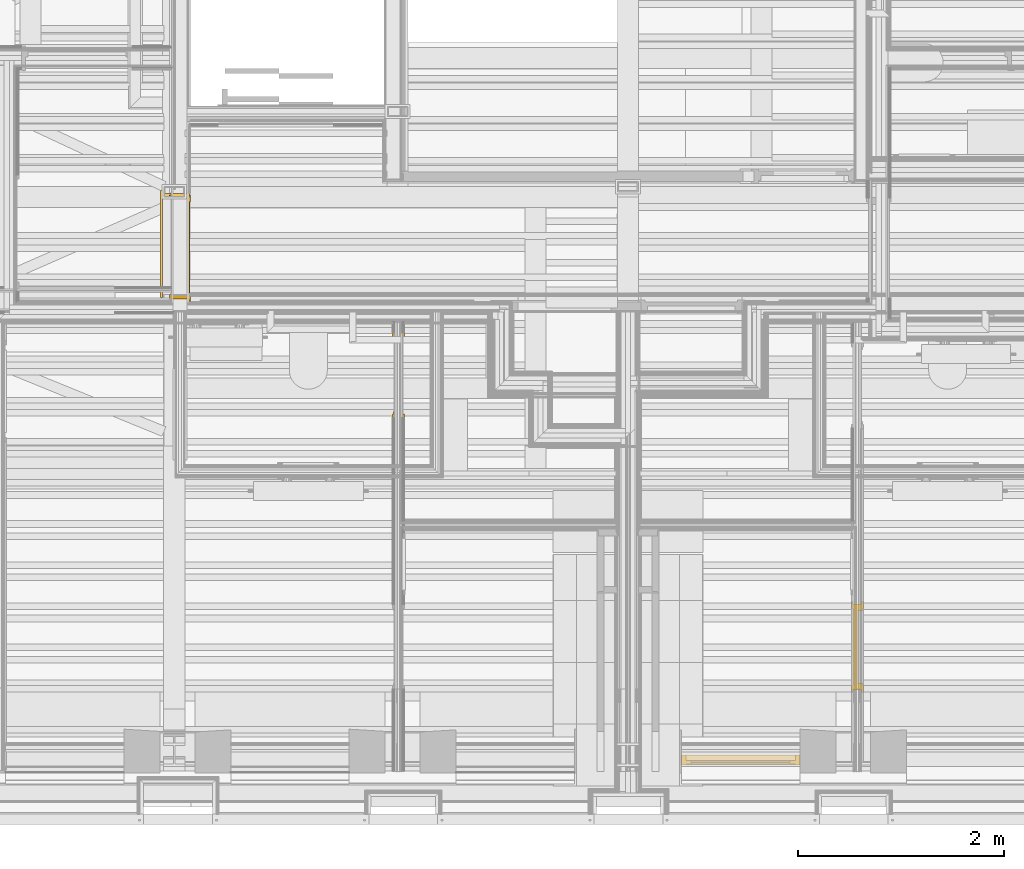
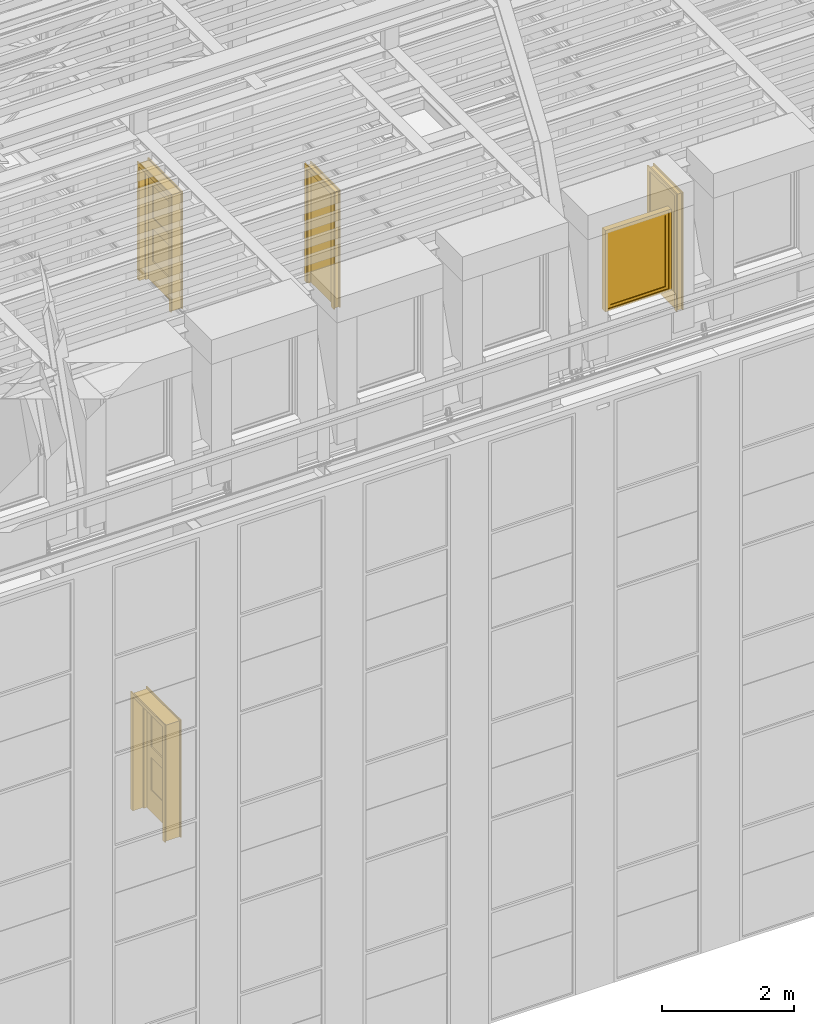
# One storey, part 119 of 183: 4 doors, 1 window.
"""IFC2X3 building model written with IfcOpenShell, lengths in metres."""

from ifc_helpers import new_model, entity, si_unit, converted_unit, derived_unit, money_unit, direction, frame, origin_with_axes, place, context, subcontext, project, spatial, faceted_brep, material, type_object, element, save


model = new_model("IFC2X3")

# Units and contexts
model_context = context("Model", 3, precision=1e-05, world=origin_with_axes(), true_north=direction((0.0, 1.0)))
body_context = subcontext(model_context, "Body", "Model", "MODEL_VIEW", scale=1.0)
ifc_project = project(units=[si_unit("LENGTHUNIT", "METRE"), si_unit("AREAUNIT", "SQUARE_METRE"), si_unit("VOLUMEUNIT", "CUBIC_METRE"), si_unit("ABSORBEDDOSEUNIT", "GRAY"), si_unit("AMOUNTOFSUBSTANCEUNIT", "MOLE"), si_unit("DOSEEQUIVALENTUNIT", "SIEVERT"), si_unit("ELECTRICCAPACITANCEUNIT", "FARAD"), si_unit("ELECTRICCHARGEUNIT", "COULOMB"), si_unit("ELECTRICCONDUCTANCEUNIT", "SIEMENS"), si_unit("ELECTRICCURRENTUNIT", "AMPERE"), si_unit("ELECTRICRESISTANCEUNIT", "OHM"), si_unit("ELECTRICVOLTAGEUNIT", "VOLT"), si_unit("ENERGYUNIT", "JOULE"), si_unit("FORCEUNIT", "NEWTON"), si_unit("FREQUENCYUNIT", "HERTZ"), si_unit("ILLUMINANCEUNIT", "LUX"), si_unit("INDUCTANCEUNIT", "HENRY"), si_unit("LUMINOUSFLUXUNIT", "LUMEN"), si_unit("LUMINOUSINTENSITYUNIT", "CANDELA"), si_unit("MAGNETICFLUXDENSITYUNIT", "TESLA"), si_unit("MAGNETICFLUXUNIT", "WEBER"), si_unit("MASSUNIT", "GRAM"), converted_unit("PLANEANGLEUNIT", "degree", entity("IfcReal", 0.0174532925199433), si_unit("PLANEANGLEUNIT", "RADIAN"), dimensions=[0, 0, 0, 0, 0, 0, 0]), si_unit("POWERUNIT", "WATT"), si_unit("PRESSUREUNIT", "PASCAL"), si_unit("RADIOACTIVITYUNIT", "BECQUEREL"), si_unit("SOLIDANGLEUNIT", "STERADIAN"), si_unit("THERMODYNAMICTEMPERATUREUNIT", "KELVIN"), si_unit("TIMEUNIT", "SECOND"), derived_unit("ACCELERATIONUNIT", [(si_unit("LENGTHUNIT", "METRE"), 1), (si_unit("TIMEUNIT", "SECOND"), -2)]), derived_unit("ANGULARVELOCITYUNIT", [(converted_unit("PLANEANGLEUNIT", "degree", entity("IfcReal", 0.0174532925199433), si_unit("PLANEANGLEUNIT", "RADIAN"), dimensions=[0, 0, 0, 0, 0, 0, 0]), 1), (si_unit("TIMEUNIT", "SECOND"), -1)]), derived_unit("CURVATUREUNIT", [(converted_unit("PLANEANGLEUNIT", "degree", entity("IfcReal", 0.0174532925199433), si_unit("PLANEANGLEUNIT", "RADIAN"), dimensions=[0, 0, 0, 0, 0, 0, 0]), 1), (si_unit("LENGTHUNIT", "METRE"), -1)]), derived_unit("DYNAMICVISCOSITYUNIT", [(si_unit("PRESSUREUNIT", "PASCAL"), 1), (si_unit("TIMEUNIT", "SECOND"), 1)]), derived_unit("HEATFLUXDENSITYUNIT", [(si_unit("POWERUNIT", "WATT"), 1), (si_unit("LENGTHUNIT", "METRE"), -2)]), derived_unit("HEATINGVALUEUNIT", [(si_unit("ENERGYUNIT", "JOULE"), 1), (si_unit("MASSUNIT", "GRAM"), -1)]), derived_unit("INTEGERCOUNTRATEUNIT", [(si_unit("TIMEUNIT", "SECOND"), -1)]), derived_unit("IONCONCENTRATIONUNIT", [(si_unit("MASSUNIT", "GRAM"), 1), (si_unit("VOLUMEUNIT", "CUBIC_METRE"), -1)]), derived_unit("ISOTHERMALMOISTURECAPACITYUNIT", [(si_unit("VOLUMEUNIT", "CUBIC_METRE"), 1), (si_unit("MASSUNIT", "GRAM"), -1)]), derived_unit("KINEMATICVISCOSITYUNIT", [(si_unit("AREAUNIT", "SQUARE_METRE"), 1), (si_unit("TIMEUNIT", "SECOND"), -1)]), derived_unit("LINEARFORCEUNIT", [(si_unit("FORCEUNIT", "NEWTON"), 1), (si_unit("LENGTHUNIT", "METRE"), -1)]), derived_unit("LINEARMOMENTUNIT", [(si_unit("FORCEUNIT", "NEWTON"), 1), (si_unit("LENGTHUNIT", "METRE"), -1)]), derived_unit("LINEARSTIFFNESSUNIT", [(si_unit("FORCEUNIT", "NEWTON"), 1), (si_unit("LENGTHUNIT", "METRE"), -1)]), derived_unit("LINEARVELOCITYUNIT", [(si_unit("LENGTHUNIT", "METRE"), 1), (si_unit("TIMEUNIT", "SECOND"), -1)]), derived_unit("LUMINOUSINTENSITYDISTRIBUTIONUNIT", [(si_unit("LUMINOUSINTENSITYUNIT", "CANDELA"), 1), (si_unit("LUMINOUSFLUXUNIT", "LUMEN"), -1)]), derived_unit("MASSDENSITYUNIT", [(si_unit("MASSUNIT", "GRAM"), 1), (si_unit("VOLUMEUNIT", "CUBIC_METRE"), -1)]), derived_unit("MASSFLOWRATEUNIT", [(si_unit("MASSUNIT", "GRAM"), 1), (si_unit("TIMEUNIT", "SECOND"), -1)]), derived_unit("MASSPERLENGTHUNIT", [(si_unit("MASSUNIT", "GRAM"), 1), (si_unit("LENGTHUNIT", "METRE"), -1)]), derived_unit("MODULUSOFELASTICITYUNIT", [(si_unit("FORCEUNIT", "NEWTON"), 1), (si_unit("AREAUNIT", "SQUARE_METRE"), -1)]), derived_unit("MODULUSOFLINEARSUBGRADEREACTIONUNIT", [(si_unit("FORCEUNIT", "NEWTON"), 1), (si_unit("LENGTHUNIT", "METRE"), -2)]), derived_unit("MODULUSOFROTATIONALSUBGRADEREACTIONUNIT", [(si_unit("FORCEUNIT", "NEWTON"), 1), (si_unit("LENGTHUNIT", "METRE"), 1)]), derived_unit("MODULUSOFSUBGRADEREACTIONUNIT", [(si_unit("FORCEUNIT", "NEWTON"), 1), (si_unit("VOLUMEUNIT", "CUBIC_METRE"), -1)]), derived_unit("MOISTUREDIFFUSIVITYUNIT", [(si_unit("VOLUMEUNIT", "CUBIC_METRE"), 1), (si_unit("TIMEUNIT", "SECOND"), -1)]), derived_unit("MOLECULARWEIGHTUNIT", [(si_unit("MASSUNIT", "GRAM"), 1), (si_unit("AMOUNTOFSUBSTANCEUNIT", "MOLE"), -1)]), derived_unit("PLANARFORCEUNIT", [(si_unit("FORCEUNIT", "NEWTON"), 1), (si_unit("LENGTHUNIT", "METRE"), -2)]), derived_unit("ROTATIONALFREQUENCYUNIT", [(si_unit("TIMEUNIT", "SECOND"), -1)]), derived_unit("ROTATIONALMASSUNIT", [(si_unit("MASSUNIT", "GRAM"), 1), (si_unit("LENGTHUNIT", "METRE"), 2)]), derived_unit("ROTATIONALSTIFFNESSUNIT", [(si_unit("FORCEUNIT", "NEWTON"), 1), (si_unit("LENGTHUNIT", "METRE"), 1), (converted_unit("PLANEANGLEUNIT", "degree", entity("IfcReal", 0.0174532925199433), si_unit("PLANEANGLEUNIT", "RADIAN"), dimensions=[0, 0, 0, 0, 0, 0, 0]), -1)]), derived_unit("SECTIONAREAINTEGRALUNIT", [(si_unit("LENGTHUNIT", "METRE"), 5)]), derived_unit("SECTIONMODULUSUNIT", [(si_unit("LENGTHUNIT", "METRE"), 3)]), derived_unit("SHEARMODULUSUNIT", [(si_unit("FORCEUNIT", "NEWTON"), 1), (si_unit("AREAUNIT", "SQUARE_METRE"), -1)]), derived_unit("SOUNDPOWERUNIT", [(si_unit("ENERGYUNIT", "JOULE"), 1), (si_unit("TIMEUNIT", "SECOND"), -1)]), derived_unit("SPECIFICHEATCAPACITYUNIT", [(si_unit("FORCEUNIT", "NEWTON"), 1), (si_unit("MASSUNIT", "GRAM"), -1), (si_unit("THERMODYNAMICTEMPERATUREUNIT", "KELVIN"), -1)]), derived_unit("TEMPERATUREGRADIENTUNIT", [(si_unit("THERMODYNAMICTEMPERATUREUNIT", "KELVIN"), 1), (si_unit("LENGTHUNIT", "METRE"), -1)]), derived_unit("THERMALADMITTANCEUNIT", [(si_unit("POWERUNIT", "WATT"), 1), (si_unit("AREAUNIT", "SQUARE_METRE"), -1), (si_unit("THERMODYNAMICTEMPERATUREUNIT", "KELVIN"), -1)]), derived_unit("THERMALCONDUCTANCEUNIT", [(si_unit("POWERUNIT", "WATT"), 1), (si_unit("LENGTHUNIT", "METRE"), -1), (si_unit("THERMODYNAMICTEMPERATUREUNIT", "KELVIN"), -1)]), derived_unit("THERMALEXPANSIONCOEFFICIENTUNIT", [(si_unit("THERMODYNAMICTEMPERATUREUNIT", "KELVIN"), -1)]), derived_unit("THERMALRESISTANCEUNIT", [(si_unit("AREAUNIT", "SQUARE_METRE"), 1), (si_unit("POWERUNIT", "WATT"), -1)]), derived_unit("THERMALTRANSMITTANCEUNIT", [(si_unit("POWERUNIT", "WATT"), 1), (si_unit("AREAUNIT", "SQUARE_METRE"), -1), (si_unit("THERMODYNAMICTEMPERATUREUNIT", "KELVIN"), -1)]), derived_unit("TORQUEUNIT", [(si_unit("FORCEUNIT", "NEWTON"), 1), (si_unit("LENGTHUNIT", "METRE"), 1)]), derived_unit("VAPORPERMEABILITYUNIT", [(si_unit("MASSUNIT", "GRAM"), 1), (si_unit("TIMEUNIT", "SECOND"), -1)]), derived_unit("VOLUMETRICFLOWRATEUNIT", [(si_unit("VOLUMEUNIT", "CUBIC_METRE"), 1), (si_unit("TIMEUNIT", "SECOND"), -1)]), derived_unit("WARPINGCONSTANTUNIT", [(si_unit("LENGTHUNIT", "METRE"), 6)]), derived_unit("WARPINGMOMENTUNIT", [(si_unit("FORCEUNIT", "NEWTON"), 1), (si_unit("LENGTHUNIT", "METRE"), 2)]), money_unit("GBP")], contexts=[model_context])

# Site, building, storey, space
site_placement = place(None, origin_with_axes())
site = spatial("IfcSite", under=ifc_project, at=site_placement, Name="Site", CompositionType="ELEMENT")
building_placement = place(site_placement, origin_with_axes())
building = spatial("IfcBuilding", under=site, at=building_placement, Name="Building01", CompositionType="ELEMENT")
storey_placement = place(building_placement, frame((0.0, 0.0, 5.15), z_axis=(0.0, 0.0, 1.0), x_axis=(1.0, 0.0, 0.0)))
storey = spatial("IfcBuildingStorey", under=building, at=storey_placement, Name="1F", CompositionType="ELEMENT", Elevation=5.15)
space_1_placement = place(storey_placement, frame((15.69, 2.869761, 9.81), z_axis=(0.0, 0.0, 1.0), x_axis=(-1.0, 0.0, 0.0)))
space_1 = spatial("IfcSpace", under=storey, at=space_1_placement, Name="ensuite", CompositionType="ELEMENT", InteriorOrExteriorSpace="NOTDEFINED")

# Window
ifc_material_1 = material(Name="A_BSUK_Windows")
window_style = type_object("IfcWindowStyle", Name="A-Awning", ConstructionType="NOTDEFINED", OperationType="USERDEFINED", ParameterTakesPrecedence=False, Sizeable=False)
window_placement = place(storey_placement, frame((15.170024, 0.549939, 10.78), z_axis=(0.0, 0.0, 1.0), x_axis=(1.0, 0.0, 0.0)))
element("IfcWindow", 1, at=window_placement, inside=space_1, type_object=window_style, material=ifc_material_1, Name="4.06", ObjectType="A-Awning", OverallHeight=1.50000000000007, OverallWidth=1.15000000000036, context=body_context, shape_type="Brep", body=[
    faceted_brep([(-1.108, 0.0254, 0.042), (-0.042, 0.0254, 0.042), (-0.042, 0.1254, 0.042), (-1.108, 0.1254, 0.042), (-1.108, 0.0254, 1.458), (-1.108, 0.1254, 1.458), (-0.042, 0.0254, 1.458), (-0.042, 0.1254, 1.458), (0.0, 0.0254, 0.0), (0.0, 0.0254, 1.5), (-1.15, 0.0254, 1.5), (-1.15, 0.0254, 0.0), (0.0, 0.1254, 1.5), (-1.15, 0.1254, 1.5), (-1.15, 0.1254, 0.0), (0.0, 0.1254, 0.0)], [[[0, 1, 2, 3]], [[4, 0, 3, 5]], [[6, 4, 5, 7]], [[8, 9, 10, 11], [4, 6, 1, 0]], [[1, 6, 7, 2]], [[12, 13, 10, 9]], [[14, 15, 8, 11]], [[13, 14, 11, 10]], [[13, 12, 15, 14], [2, 7, 5, 3]], [[15, 12, 9, 8]]]),
    faceted_brep([(-1.0572, 0.0354, 0.0928), (-0.0928, 0.0354, 0.0928), (-0.0928, 0.0704, 0.0928), (-1.0572, 0.0704, 0.0928), (-1.0572, 0.0354, 1.4072), (-1.0572, 0.0704, 1.4072), (-0.0928, 0.0354, 1.4072), (-0.0928, 0.0704, 1.4072), (-1.108, 0.0704, 1.458), (-0.042, 0.0704, 1.458), (-0.042, 0.0704, 0.042), (-1.108, 0.0704, 0.042), (-1.108, 0.0354, 1.458), (-0.042, 0.0354, 1.458), (-0.042, 0.0354, 0.042), (-1.108, 0.0354, 0.042)], [[[0, 1, 2, 3]], [[4, 0, 3, 5]], [[6, 4, 5, 7]], [[8, 9, 10, 11], [2, 7, 5, 3]], [[9, 8, 12, 13]], [[10, 9, 13, 14]], [[11, 10, 14, 15]], [[8, 11, 15, 12]], [[14, 13, 12, 15], [4, 6, 1, 0]], [[1, 6, 7, 2]]]),
    faceted_brep([(-0.0928, 0.049725, 0.0928), (-0.0928, 0.056075, 0.0928), (-0.0928, 0.056075, 1.4072), (-0.0928, 0.049725, 1.4072), (-1.0572, 0.049725, 1.4072), (-1.0572, 0.056075, 1.4072), (-1.0572, 0.056075, 0.0928), (-1.0572, 0.049725, 0.0928)], [[[0, 1, 2, 3]], [[4, 5, 6, 7]], [[3, 2, 5, 4]], [[3, 4, 7, 0]], [[7, 6, 1, 0]], [[1, 6, 5, 2]]]),
])

# Space
space_2_placement = place(storey_placement, frame((12.175, 4.189428, 9.81), z_axis=(0.0, 0.0, 1.0), x_axis=(0.0, 1.0, 0.0)))
space_2 = spatial("IfcSpace", under=storey, at=space_2_placement, Name="25", CompositionType="ELEMENT", InteriorOrExteriorSpace="NOTDEFINED")

# Door
ifc_material_2 = material(Name="A_BSUK_Doors")
door_style_1 = type_object("IfcDoorStyle", Name="A-Doors-SingleFlush", ConstructionType="USERDEFINED", OperationType="SINGLE_SWING_LEFT", ParameterTakesPrecedence=False, Sizeable=False)
door_1_placement = place(storey_placement, frame((11.31, 4.739761, 9.78), z_axis=(0.0, 0.0, 1.0), x_axis=(0.0, -1.0, 0.0)))
element("IfcDoor", 2, at=door_1_placement, inside=space_2, type_object=door_style_1, material=ifc_material_2, Name="4.24", ObjectType="A-Doors-SingleFlush", OverallHeight=2.16900000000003, OverallWidth=0.88800000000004, context=body_context, shape_type="Brep", body=[
    faceted_brep([(0.0, -0.099, 2.1), (0.75, -0.099, 2.1), (0.75, -0.099, 0.0), (0.819, -0.099, 0.0), (0.819, -0.099, 2.169), (-0.069, -0.099, 2.169), (-0.069, -0.099, 0.0), (0.0, -0.099, 0.0), (0.819, -0.08, 2.169), (0.819, -0.08, 0.0), (-0.069, -0.08, 0.0), (-0.069, -0.08, 2.169), (-0.042, -0.08, 0.0), (-0.042, 0.0, 0.0), (-0.069, 0.0, 0.0), (-0.069, 0.019, 0.0), (0.0, 0.019, 0.0), (0.0, 0.019, 2.1), (0.75, 0.019, 2.1), (-0.069, 0.019, 2.169), (0.819, 0.019, 2.169), (0.819, 0.019, 0.0), (0.75, 0.019, 0.0), (-0.069, 0.0, 2.169), (-0.042, 0.0, 2.142), (-0.042, -0.08, 2.142), (0.792, 0.0, 2.142), (0.792, -0.08, 2.142), (0.792, -0.08, 0.0), (0.792, 0.0, 0.0), (0.819, 0.0, 0.0), (0.819, 0.0, 2.169)], [[[0, 1, 2, 3, 4, 5, 6, 7]], [[8, 4, 3, 9]], [[10, 6, 5, 11]], [[11, 5, 4, 8]], [[7, 6, 10, 12, 13, 14, 15, 16]], [[7, 16, 17, 0]], [[0, 17, 18, 1]], [[17, 16, 15, 19, 20, 21, 22, 18]], [[1, 18, 22, 2]], [[14, 23, 19, 15]], [[24, 13, 12, 25]], [[26, 24, 25, 27]], [[11, 8, 9, 28, 27, 25, 12, 10]], [[27, 28, 29, 26]], [[26, 29, 30, 31, 23, 14, 13, 24]], [[22, 21, 30, 29, 28, 9, 3, 2]], [[30, 21, 20, 31]], [[31, 20, 19, 23]]]),
    faceted_brep([(0.75, -0.09, 0.0), (0.75, -0.04, 0.0), (0.75, -0.04, 2.1), (0.75, -0.09, 2.1), (0.025, -0.09, 2.075), (0.725, -0.09, 2.075), (0.725, -0.09, 0.0), (0.0, -0.09, 2.1), (0.0, -0.09, 0.0), (0.025, -0.09, 0.0), (0.0, -0.04, 0.0), (0.025, -0.04, 0.0), (0.0, -0.04, 2.1), (0.025, -0.04, 2.075), (0.725, -0.04, 0.0), (0.725, -0.04, 2.075)], [[[0, 1, 2, 3]], [[4, 5, 6, 0, 3, 7, 8, 9]], [[9, 8, 10, 11]], [[3, 2, 12, 7]], [[7, 12, 10, 8]], [[13, 11, 10, 12, 2, 1, 14, 15]], [[5, 15, 14, 6]], [[14, 1, 0, 6]], [[9, 11, 13, 4]], [[4, 13, 15, 5]]]),
    faceted_brep([(0.0, -0.04, 2.1), (0.0, 0.0, 2.1), (0.0, 0.0, 0.0), (0.0, -0.04, 0.0), (0.75, -0.04, 0.0), (0.75, 0.0, 0.0), (0.75, 0.0, 2.1), (0.75, -0.04, 2.1)], [[[0, 1, 2, 3]], [[4, 5, 6, 7]], [[3, 2, 5, 4]], [[3, 4, 7, 0]], [[7, 6, 1, 0]], [[1, 6, 5, 2]]]),
])

# Space
space_3_placement = place(storey_placement, frame((17.73844, 7.349915, 9.81), z_axis=(0.0, 0.0, 1.0), x_axis=(0.0, -1.0, 0.0)))
space_3 = spatial("IfcSpace", under=storey, at=space_3_placement, Name="24", CompositionType="ELEMENT", InteriorOrExteriorSpace="NOTDEFINED")

# Door
door_2_placement = place(storey_placement, frame((15.69, 1.349939, 9.78), z_axis=(0.0, 0.0, 1.0), x_axis=(0.0, 1.0, 0.0)))
element("IfcDoor", 3, at=door_2_placement, inside=space_3, type_object=door_style_1, material=ifc_material_2, Name="4.13", ObjectType="A-Doors-SingleFlush", OverallHeight=2.16900000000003, OverallWidth=0.888000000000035, context=body_context, shape_type="Brep", body=[
    faceted_brep([(0.0, -0.099, 2.1), (0.75, -0.099, 2.1), (0.75, -0.099, 0.0), (0.819, -0.099, 0.0), (0.819, -0.099, 2.169), (-0.069, -0.099, 2.169), (-0.069, -0.099, 0.0), (0.0, -0.099, 0.0), (0.819, -0.08, 2.169), (0.819, -0.08, 0.0), (-0.069, -0.08, 0.0), (-0.069, -0.08, 2.169), (-0.042, -0.08, 0.0), (-0.042, 0.0, 0.0), (-0.069, 0.0, 0.0), (-0.069, 0.019, 0.0), (0.0, 0.019, 0.0), (0.0, 0.019, 2.1), (0.75, 0.019, 2.1), (-0.069, 0.019, 2.169), (0.819, 0.019, 2.169), (0.819, 0.019, 0.0), (0.75, 0.019, 0.0), (-0.069, 0.0, 2.169), (-0.042, 0.0, 2.142), (-0.042, -0.08, 2.142), (0.792, 0.0, 2.142), (0.792, -0.08, 2.142), (0.792, -0.08, 0.0), (0.792, 0.0, 0.0), (0.819, 0.0, 0.0), (0.819, 0.0, 2.169)], [[[0, 1, 2, 3, 4, 5, 6, 7]], [[8, 4, 3, 9]], [[10, 6, 5, 11]], [[11, 5, 4, 8]], [[7, 6, 10, 12, 13, 14, 15, 16]], [[7, 16, 17, 0]], [[0, 17, 18, 1]], [[17, 16, 15, 19, 20, 21, 22, 18]], [[1, 18, 22, 2]], [[14, 23, 19, 15]], [[24, 13, 12, 25]], [[26, 24, 25, 27]], [[11, 8, 9, 28, 27, 25, 12, 10]], [[27, 28, 29, 26]], [[26, 29, 30, 31, 23, 14, 13, 24]], [[22, 21, 30, 29, 28, 9, 3, 2]], [[30, 21, 20, 31]], [[31, 20, 19, 23]]]),
    faceted_brep([(0.75, -0.09, 0.0), (0.75, -0.04, 0.0), (0.75, -0.04, 2.1), (0.75, -0.09, 2.1), (0.025, -0.09, 2.075), (0.725, -0.09, 2.075), (0.725, -0.09, 0.0), (0.0, -0.09, 2.1), (0.0, -0.09, 0.0), (0.025, -0.09, 0.0), (0.0, -0.04, 0.0), (0.025, -0.04, 0.0), (0.0, -0.04, 2.1), (0.025, -0.04, 2.075), (0.725, -0.04, 0.0), (0.725, -0.04, 2.075)], [[[0, 1, 2, 3]], [[4, 5, 6, 0, 3, 7, 8, 9]], [[9, 8, 10, 11]], [[3, 2, 12, 7]], [[7, 12, 10, 8]], [[13, 11, 10, 12, 2, 1, 14, 15]], [[5, 15, 14, 6]], [[14, 1, 0, 6]], [[9, 11, 13, 4]], [[4, 13, 15, 5]]]),
    faceted_brep([(0.0, -0.04, 2.1), (0.0, 0.0, 2.1), (0.0, 0.0, 0.0), (0.0, -0.04, 0.0), (0.75, -0.04, 0.0), (0.75, 0.0, 0.0), (0.75, 0.0, 2.1), (0.75, -0.04, 2.1)], [[[0, 1, 2, 3]], [[4, 5, 6, 7]], [[3, 2, 5, 4]], [[3, 4, 7, 0]], [[7, 6, 1, 0]], [[1, 6, 5, 2]]]),
])

# Space
space_4_placement = place(storey_placement, frame((9.225, 6.85, 0.017932), z_axis=(0.0, 0.0, 1.0), x_axis=(0.0, -1.0, 0.0)))
space_4 = spatial("IfcSpace", under=storey, at=space_4_placement, Name="hall (vented)", CompositionType="ELEMENT", InteriorOrExteriorSpace="NOTDEFINED")

# Door
door_style_2 = type_object("IfcDoorStyle", Name="A-Doors-SingleVisionPanels", ConstructionType="USERDEFINED", OperationType="SINGLE_SWING_RIGHT", ParameterTakesPrecedence=False, Sizeable=False)
door_3_placement = place(storey_placement, frame((9.225, 6.092, 0.0), z_axis=(0.0, 0.0, 1.0), x_axis=(0.0, -1.0, 0.0)))
element("IfcDoor", 4, at=door_3_placement, inside=space_4, type_object=door_style_2, material=ifc_material_2, Name="1.01", ObjectType="A-Doors-SingleVisionPanels", OverallHeight=2.16900000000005, OverallWidth=1.03800000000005, context=body_context, shape_type="Brep", body=[
    faceted_brep([(0.9, -0.269, 0.0), (0.969, -0.269, 0.0), (0.969, -0.269, 2.169), (-0.069, -0.269, 2.169), (-0.069, -0.269, 0.0), (0.0, -0.269, 0.0), (0.0, -0.269, 2.1), (0.9, -0.269, 2.1), (-0.069, -0.25, 0.0), (-0.069, -0.25, 2.169), (0.969, -0.25, 2.169), (0.969, -0.25, 0.0), (0.9, 0.019, 0.0), (0.969, 0.019, 0.0), (0.969, 0.0, 0.0), (0.942, 0.0, 0.0), (0.942, -0.25, 0.0), (0.9, 0.019, 2.1), (0.0, 0.019, 2.1), (0.0, 0.019, 0.0), (-0.069, 0.019, 0.0), (-0.069, 0.019, 2.169), (0.969, 0.019, 2.169), (0.969, 0.0, 2.169), (0.942, -0.25, 2.142), (0.942, 0.0, 2.142), (-0.042, -0.25, 2.142), (-0.042, 0.0, 2.142), (-0.042, -0.25, 0.0), (-0.042, 0.0, 0.0), (-0.069, 0.0, 2.169), (-0.069, 0.0, 0.0)], [[[0, 1, 2, 3, 4, 5, 6, 7]], [[8, 4, 3, 9]], [[10, 2, 1, 11]], [[9, 3, 2, 10]], [[12, 13, 14, 15, 16, 11, 1, 0]], [[7, 17, 12, 0]], [[6, 18, 17, 7]], [[18, 19, 20, 21, 22, 13, 12, 17]], [[5, 19, 18, 6]], [[13, 22, 23, 14]], [[24, 16, 15, 25]], [[26, 24, 25, 27]], [[11, 16, 24, 26, 28, 8, 9, 10]], [[27, 29, 28, 26]], [[25, 15, 14, 23, 30, 31, 29, 27]], [[5, 4, 8, 28, 29, 31, 20, 19]], [[30, 21, 20, 31]], [[23, 22, 21, 30]]]),
    faceted_brep([(0.0, -0.09, 2.1), (0.0, -0.04, 2.1), (0.0, -0.04, 0.0), (0.0, -0.09, 0.0), (0.875, -0.09, 0.0), (0.9, -0.09, 0.0), (0.9, -0.09, 2.1), (0.025, -0.09, 0.0), (0.025, -0.09, 2.075), (0.875, -0.09, 2.075), (0.875, -0.04, 0.0), (0.9, -0.04, 0.0), (0.9, -0.04, 2.1), (0.025, -0.04, 2.075), (0.025, -0.04, 0.0), (0.875, -0.04, 2.075)], [[[0, 1, 2, 3]], [[4, 5, 6, 0, 3, 7, 8, 9]], [[10, 11, 5, 4]], [[6, 12, 1, 0]], [[5, 11, 12, 6]], [[13, 14, 2, 1, 12, 11, 10, 15]], [[7, 14, 13, 8]], [[7, 3, 2, 14]], [[9, 15, 10, 4]], [[8, 13, 15, 9]]]),
    faceted_brep([(0.75, -0.017, 1.0), (0.75, -0.023, 1.0), (0.75, -0.023, 0.4), (0.75, -0.017, 0.4), (0.15, -0.017, 0.4), (0.15, -0.023, 0.4), (0.15, -0.023, 1.0), (0.15, -0.017, 1.0)], [[[0, 1, 2, 3]], [[4, 5, 6, 7]], [[7, 6, 1, 0]], [[3, 4, 7, 0]], [[3, 2, 5, 4]], [[1, 6, 5, 2]]]),
    faceted_brep([(0.75, -0.017, 1.8), (0.75, -0.023, 1.8), (0.75, -0.023, 1.2), (0.75, -0.017, 1.2), (0.15, -0.017, 1.2), (0.15, -0.023, 1.2), (0.15, -0.023, 1.8), (0.15, -0.017, 1.8)], [[[0, 1, 2, 3]], [[4, 5, 6, 7]], [[7, 6, 1, 0]], [[3, 4, 7, 0]], [[3, 2, 5, 4]], [[1, 6, 5, 2]]]),
    faceted_brep([(0.15, -0.04, 1.8), (0.15, 0.0, 1.8), (0.75, 0.0, 1.8), (0.75, -0.04, 1.8), (0.15, -0.04, 0.4), (0.15, 0.0, 0.4), (0.15, 0.0, 1.0), (0.15, -0.04, 1.0), (0.75, -0.04, 0.4), (0.75, 0.0, 0.4), (0.75, -0.04, 1.0), (0.75, 0.0, 1.0), (0.0, 0.0, 2.1), (0.9, 0.0, 2.1), (0.9, 0.0, 0.0), (0.0, 0.0, 0.0), (0.15, 0.0, 1.2), (0.75, 0.0, 1.2), (0.0, -0.04, 2.1), (0.0, -0.04, 0.0), (0.9, -0.04, 2.1), (0.9, -0.04, 0.0), (0.15, -0.04, 1.2), (0.75, -0.04, 1.2)], [[[0, 1, 2, 3]], [[4, 5, 6, 7]], [[8, 9, 5, 4]], [[10, 11, 9, 8]], [[7, 6, 11, 10]], [[12, 13, 14, 15], [5, 9, 11, 6], [16, 17, 2, 1]], [[18, 12, 15, 19]], [[20, 13, 12, 18]], [[21, 14, 13, 20]], [[19, 15, 14, 21]], [[22, 16, 1, 0]], [[23, 17, 16, 22]], [[3, 2, 17, 23]], [[19, 21, 20, 18], [4, 7, 10, 8], [22, 0, 3, 23]]]),
])

# Space
space_5_placement = place(storey_placement, frame((9.23, 5.08, 9.81), z_axis=(0.0, 0.0, 1.0), x_axis=(1.0, 0.0, 0.0)))
space_5 = spatial("IfcSpace", under=storey, at=space_5_placement, Name="hall (vented)", CompositionType="ELEMENT", InteriorOrExteriorSpace="NOTDEFINED")

# Door
door_4_placement = place(storey_placement, frame((9.23, 6.05, 9.78), z_axis=(0.0, 0.0, 1.0), x_axis=(0.0, -1.0, 0.0)))
element("IfcDoor", 5, at=door_4_placement, inside=space_5, type_object=door_style_2, material=ifc_material_2, Name="4.01", ObjectType="A-Doors-SingleVisionPanels", OverallHeight=2.16900000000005, OverallWidth=1.03800000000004, context=body_context, shape_type="Brep", body=[
    faceted_brep([(0.9, -0.189, 0.0), (0.969, -0.189, 0.0), (0.969, -0.189, 2.169), (-0.069, -0.189, 2.169), (-0.069, -0.189, 0.0), (0.0, -0.189, 0.0), (0.0, -0.189, 2.1), (0.9, -0.189, 2.1), (-0.069, -0.17, 0.0), (-0.069, -0.17, 2.169), (0.969, -0.17, 2.169), (0.969, -0.17, 0.0), (0.9, 0.019, 0.0), (0.969, 0.019, 0.0), (0.969, 0.0, 0.0), (0.942, 0.0, 0.0), (0.942, -0.17, 0.0), (0.9, 0.019, 2.1), (0.0, 0.019, 2.1), (0.0, 0.019, 0.0), (-0.069, 0.019, 0.0), (-0.069, 0.019, 2.169), (0.969, 0.019, 2.169), (0.969, 0.0, 2.169), (0.942, -0.17, 2.142), (0.942, 0.0, 2.142), (-0.042, -0.17, 2.142), (-0.042, 0.0, 2.142), (-0.042, -0.17, 0.0), (-0.042, 0.0, 0.0), (-0.069, 0.0, 2.169), (-0.069, 0.0, 0.0)], [[[0, 1, 2, 3, 4, 5, 6, 7]], [[8, 4, 3, 9]], [[10, 2, 1, 11]], [[9, 3, 2, 10]], [[12, 13, 14, 15, 16, 11, 1, 0]], [[7, 17, 12, 0]], [[6, 18, 17, 7]], [[18, 19, 20, 21, 22, 13, 12, 17]], [[5, 19, 18, 6]], [[13, 22, 23, 14]], [[24, 16, 15, 25]], [[26, 24, 25, 27]], [[11, 16, 24, 26, 28, 8, 9, 10]], [[27, 29, 28, 26]], [[25, 15, 14, 23, 30, 31, 29, 27]], [[5, 4, 8, 28, 29, 31, 20, 19]], [[30, 21, 20, 31]], [[23, 22, 21, 30]]]),
    faceted_brep([(0.0, -0.09, 2.1), (0.0, -0.04, 2.1), (0.0, -0.04, 0.0), (0.0, -0.09, 0.0), (0.875, -0.09, 0.0), (0.9, -0.09, 0.0), (0.9, -0.09, 2.1), (0.025, -0.09, 0.0), (0.025, -0.09, 2.075), (0.875, -0.09, 2.075), (0.875, -0.04, 0.0), (0.9, -0.04, 0.0), (0.9, -0.04, 2.1), (0.025, -0.04, 2.075), (0.025, -0.04, 0.0), (0.875, -0.04, 2.075)], [[[0, 1, 2, 3]], [[4, 5, 6, 0, 3, 7, 8, 9]], [[10, 11, 5, 4]], [[6, 12, 1, 0]], [[5, 11, 12, 6]], [[13, 14, 2, 1, 12, 11, 10, 15]], [[7, 14, 13, 8]], [[7, 3, 2, 14]], [[9, 15, 10, 4]], [[8, 13, 15, 9]]]),
    faceted_brep([(0.75, -0.017, 1.0), (0.75, -0.023, 1.0), (0.75, -0.023, 0.4), (0.75, -0.017, 0.4), (0.15, -0.017, 0.4), (0.15, -0.023, 0.4), (0.15, -0.023, 1.0), (0.15, -0.017, 1.0)], [[[0, 1, 2, 3]], [[4, 5, 6, 7]], [[7, 6, 1, 0]], [[3, 4, 7, 0]], [[3, 2, 5, 4]], [[1, 6, 5, 2]]]),
    faceted_brep([(0.75, -0.017, 1.8), (0.75, -0.023, 1.8), (0.75, -0.023, 1.2), (0.75, -0.017, 1.2), (0.15, -0.017, 1.2), (0.15, -0.023, 1.2), (0.15, -0.023, 1.8), (0.15, -0.017, 1.8)], [[[0, 1, 2, 3]], [[4, 5, 6, 7]], [[7, 6, 1, 0]], [[3, 4, 7, 0]], [[3, 2, 5, 4]], [[1, 6, 5, 2]]]),
    faceted_brep([(0.15, -0.04, 1.8), (0.15, 0.0, 1.8), (0.75, 0.0, 1.8), (0.75, -0.04, 1.8), (0.15, -0.04, 0.4), (0.15, 0.0, 0.4), (0.15, 0.0, 1.0), (0.15, -0.04, 1.0), (0.75, -0.04, 0.4), (0.75, 0.0, 0.4), (0.75, -0.04, 1.0), (0.75, 0.0, 1.0), (0.0, 0.0, 2.1), (0.9, 0.0, 2.1), (0.9, 0.0, 0.0), (0.0, 0.0, 0.0), (0.15, 0.0, 1.2), (0.75, 0.0, 1.2), (0.0, -0.04, 2.1), (0.0, -0.04, 0.0), (0.9, -0.04, 2.1), (0.9, -0.04, 0.0), (0.15, -0.04, 1.2), (0.75, -0.04, 1.2)], [[[0, 1, 2, 3]], [[4, 5, 6, 7]], [[8, 9, 5, 4]], [[10, 11, 9, 8]], [[7, 6, 11, 10]], [[12, 13, 14, 15], [5, 9, 11, 6], [16, 17, 2, 1]], [[18, 12, 15, 19]], [[20, 13, 12, 18]], [[21, 14, 13, 20]], [[19, 15, 14, 21]], [[22, 16, 1, 0]], [[23, 17, 16, 22]], [[3, 2, 17, 23]], [[19, 21, 20, 18], [4, 7, 10, 8], [22, 0, 3, 23]]]),
])

save(model, "model.ifc")
